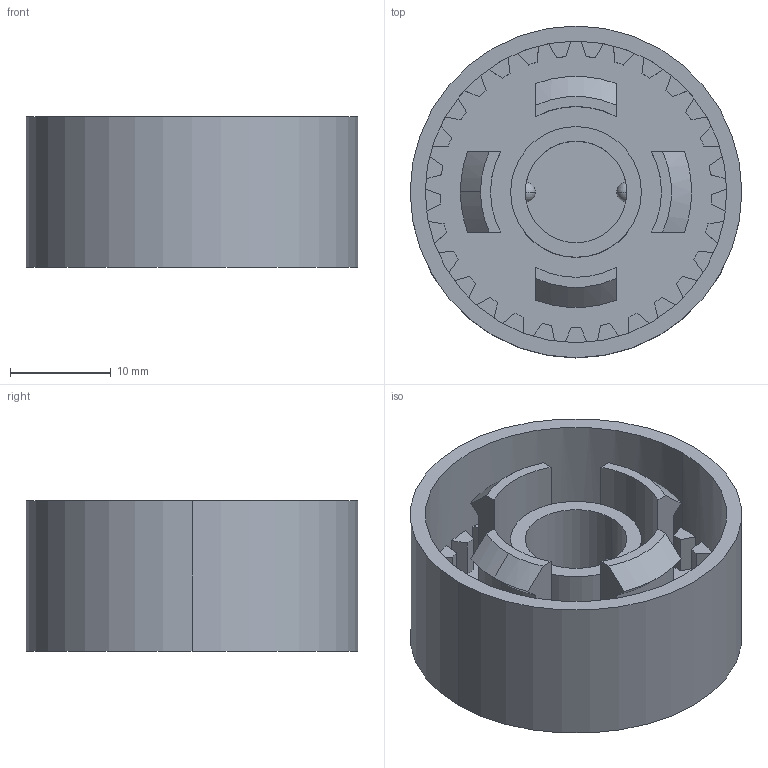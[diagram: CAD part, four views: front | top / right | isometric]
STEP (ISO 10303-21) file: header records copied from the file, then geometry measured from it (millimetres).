
FILE_DESCRIPTION (( 'STEP AP214' ), '1' );
FILE_NAME ('Hinge B.STEP', '2025-10-25T21:57:08', ( '' ), ( '' ), 'SwSTEP 2.0', 'SolidWorks 2025', '' );
FILE_SCHEMA (( 'AUTOMOTIVE_DESIGN' ));
Length unit declared in the file: millimetre
Products named in the file (1): Hinge B
Bounding box: 33 x 33 x 15 mm (x, y, z)
Volume: 5308.5 mm3; surface area: 6532.2 mm2
Topology: 1 solids, 1 shells, 165 faces, 466 edges, 310 vertices
Faces by surface type: plane 104, cylinder 47, cone 10, sphere 4
Entity records: 5491 total; most frequent: CARTESIAN_POINT 1058, DIRECTION 946, ORIENTED_EDGE 932, EDGE_CURVE 466, AXIS2_PLACEMENT_3D 334, VERTEX_POINT 310, LINE 278, VECTOR 278
